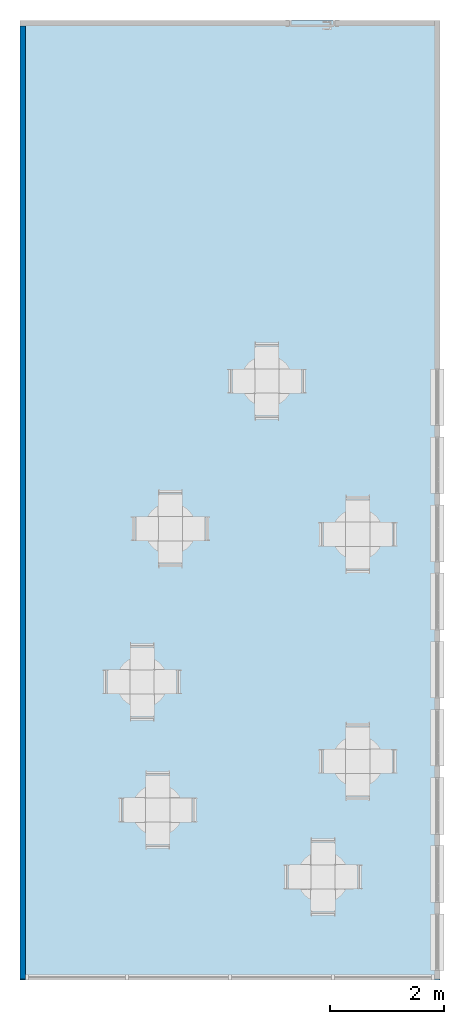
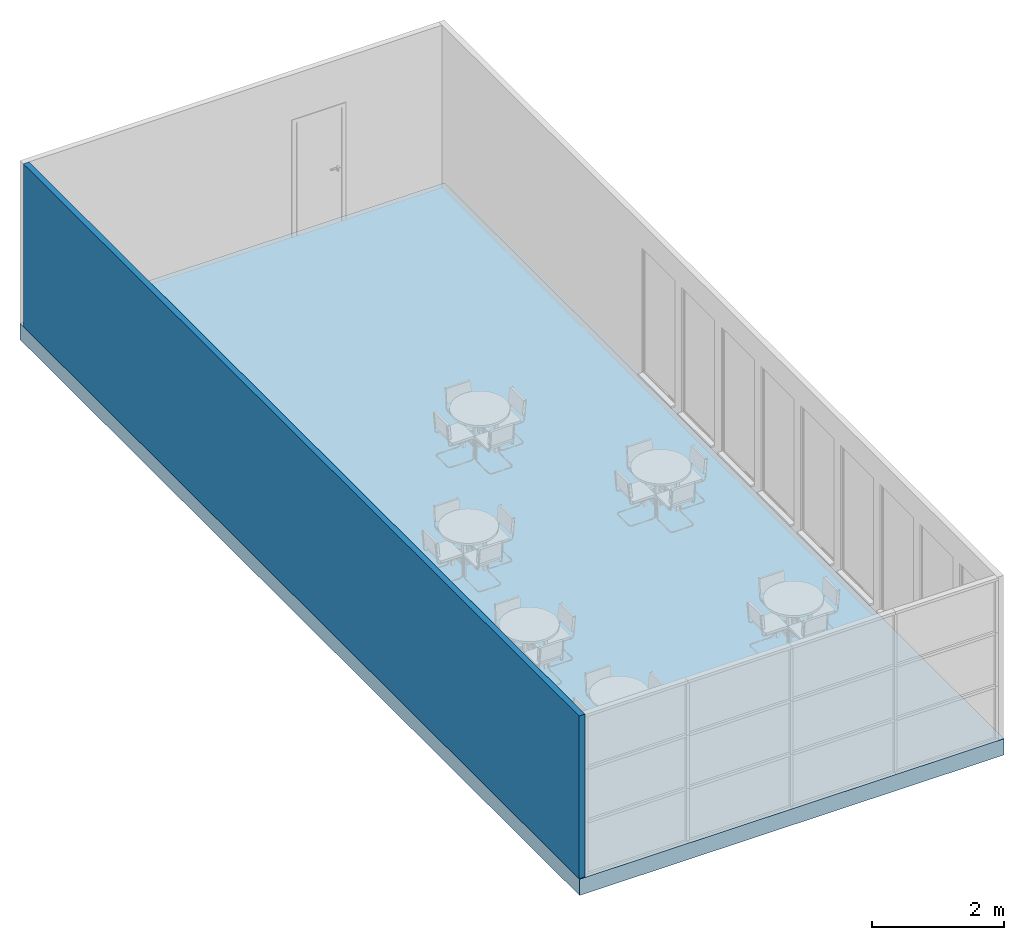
# One storey, part 2 of 11: 1 slab, 1 wall.
"""IFC2X3 building model written with IfcOpenShell, lengths in metres."""

from ifc_helpers import new_model, entity, si_unit, converted_unit, derived_unit, direction, frame, frame_2d, origin, origin_2d_with_axis, place, context, subcontext, project, spatial, rectangle, extrude, material, layer, layer_set, layer_usage, type_object, element, save


model = new_model("IFC2X3")

# Units and contexts
model_context = context("Model", 3, precision=1e-05, world=origin(), true_north=direction((6.12303176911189e-17, 1.0)))
body_context = subcontext(model_context, "Body", "Model", "MODEL_VIEW")
ifc_project = project(units=[si_unit("LENGTHUNIT", "METRE"), si_unit("AREAUNIT", "SQUARE_METRE"), si_unit("VOLUMEUNIT", "CUBIC_METRE"), converted_unit("PLANEANGLEUNIT", "DEGREE", entity("IfcRatioMeasure", 0.0174532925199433), si_unit("PLANEANGLEUNIT", "RADIAN"), dimensions=[0, 0, 0, 0, 0, 0, 0]), si_unit("MASSUNIT", "GRAM", prefix="KILO"), derived_unit("MASSDENSITYUNIT", [(si_unit("MASSUNIT", "GRAM", prefix="KILO"), 1), (si_unit("LENGTHUNIT", "METRE"), -3)]), derived_unit("MOMENTOFINERTIAUNIT", [(si_unit("LENGTHUNIT", "METRE"), 4)]), si_unit("TIMEUNIT", "SECOND"), si_unit("FREQUENCYUNIT", "HERTZ"), si_unit("THERMODYNAMICTEMPERATUREUNIT", "DEGREE_CELSIUS"), derived_unit("THERMALTRANSMITTANCEUNIT", [(si_unit("MASSUNIT", "GRAM", prefix="KILO"), 1), (si_unit("THERMODYNAMICTEMPERATUREUNIT", "KELVIN"), -1), (si_unit("TIMEUNIT", "SECOND"), -3)]), derived_unit("VOLUMETRICFLOWRATEUNIT", [(si_unit("LENGTHUNIT", "METRE"), 3), (si_unit("TIMEUNIT", "SECOND"), -1)]), si_unit("ELECTRICCURRENTUNIT", "AMPERE"), si_unit("ELECTRICVOLTAGEUNIT", "VOLT"), si_unit("POWERUNIT", "WATT"), si_unit("FORCEUNIT", "NEWTON", prefix="KILO"), si_unit("ILLUMINANCEUNIT", "LUX"), si_unit("LUMINOUSFLUXUNIT", "LUMEN"), si_unit("LUMINOUSINTENSITYUNIT", "CANDELA"), derived_unit("USERDEFINED", [(si_unit("MASSUNIT", "GRAM", prefix="KILO"), -1), (si_unit("LENGTHUNIT", "METRE"), -2), (si_unit("TIMEUNIT", "SECOND"), 3), (si_unit("LUMINOUSFLUXUNIT", "LUMEN"), 1)]), derived_unit("LINEARVELOCITYUNIT", [(si_unit("LENGTHUNIT", "METRE"), 1), (si_unit("TIMEUNIT", "SECOND"), -1)]), si_unit("PRESSUREUNIT", "PASCAL"), derived_unit("USERDEFINED", [(si_unit("LENGTHUNIT", "METRE"), -2), (si_unit("MASSUNIT", "GRAM", prefix="KILO"), 1), (si_unit("TIMEUNIT", "SECOND"), -2)]), derived_unit("LINEARFORCEUNIT", [(si_unit("MASSUNIT", "GRAM", prefix="KILO"), 1), (si_unit("LENGTHUNIT", "METRE"), 1), (si_unit("TIMEUNIT", "SECOND"), -2), (si_unit("LENGTHUNIT", "METRE"), -1)]), derived_unit("PLANARFORCEUNIT", [(si_unit("MASSUNIT", "GRAM", prefix="KILO"), 1), (si_unit("LENGTHUNIT", "METRE"), 1), (si_unit("TIMEUNIT", "SECOND"), -2), (si_unit("LENGTHUNIT", "METRE"), -2)])], contexts=[model_context])

# Site, building, storey
site_placement = place(None, origin())
site = spatial("IfcSite", under=ifc_project, at=site_placement, Name="Default", CompositionType="ELEMENT")
building_placement = place(site_placement, origin())
building = spatial("IfcBuilding", under=site, at=building_placement, CompositionType="ELEMENT")
storey_placement = place(building_placement, origin())
storey = spatial("IfcBuildingStorey", under=building, at=storey_placement, Name="Nivel 1", CompositionType="ELEMENT", Elevation=0.0)

# Slab
ifc_material_1 = material(Name="Suelos por defecto")
ifc_layer_1 = layer(ifc_material_1, 0.3)
ifc_layer_set_1 = layer_set([ifc_layer_1], Name="Suelo:Por defecto - 30 cm")
ifc_layer_usage_1 = layer_usage(ifc_layer_set_1, "AXIS3", "POSITIVE", 0.0)
slab_type = type_object("IfcSlabType", Name="Suelo:Por defecto - 30 cm", PredefinedType="FLOOR", material=ifc_layer_set_1)
slab_placement = place(storey_placement, origin())
element("IfcSlab", 1, at=slab_placement, inside=storey, type_object=slab_type, material=ifc_layer_usage_1, Name="Suelo:Por defecto - 30 cm", ObjectType="Suelo:Por defecto - 30 cm", PredefinedType="FLOOR", context=body_context, shape_type="SweptSolid", body=[
    extrude(rectangle(XDim=16.9, YDim=7.4, at=origin_2d_with_axis()), frame((-0.483043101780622, 0.934982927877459, 0.0), z_axis=(0.0, 0.0, -1.0), x_axis=(0.0, 1.0, 0.0)), (0.0, 0.0, 1.0), 0.3),
])

# Wall
ifc_material_2 = material(Name="Enlucido - Blanco")
ifc_layer_2 = layer(ifc_material_2, 0.015)
ifc_material_3 = material(Name="Ladrillo de cerámica hueco doble")
ifc_layer_3 = layer(ifc_material_3, 0.07)
ifc_layer_4 = layer(ifc_material_2, 0.015)
ifc_layer_set_2 = layer_set([ifc_layer_2, ifc_layer_3, ifc_layer_4], Name="Muro básico:Partición con capa de yeso")
ifc_layer_usage_2 = layer_usage(ifc_layer_set_2, "AXIS2", "NEGATIVE", 0.05)
wall_type = type_object("IfcWallType", Name="Muro básico:Partición con capa de yeso", PredefinedType="STANDARD", material=ifc_layer_set_2)
wall_placement = place(storey_placement, frame((-4.13304310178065, -7.50001707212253, 0.0), z_axis=(0.0, 0.0, 1.0), x_axis=(0.0, 1.0, 0.0)))
element("IfcWallStandardCase", 2, at=wall_placement, inside=storey, type_object=wall_type, material=ifc_layer_usage_2, Name="Muro básico:Partición con capa de yeso", ObjectType="Muro básico:Partición con capa de yeso", context=body_context, shape_type="SweptSolid", body=[
    extrude(rectangle(XDim=16.785, YDim=0.1, at=frame_2d((8.3925, 4.85722573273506e-17), x_axis=(-1.0, 0.0))), origin(), (0.0, 0.0, 1.0), 3.0),
])

save(model, "model.ifc")
